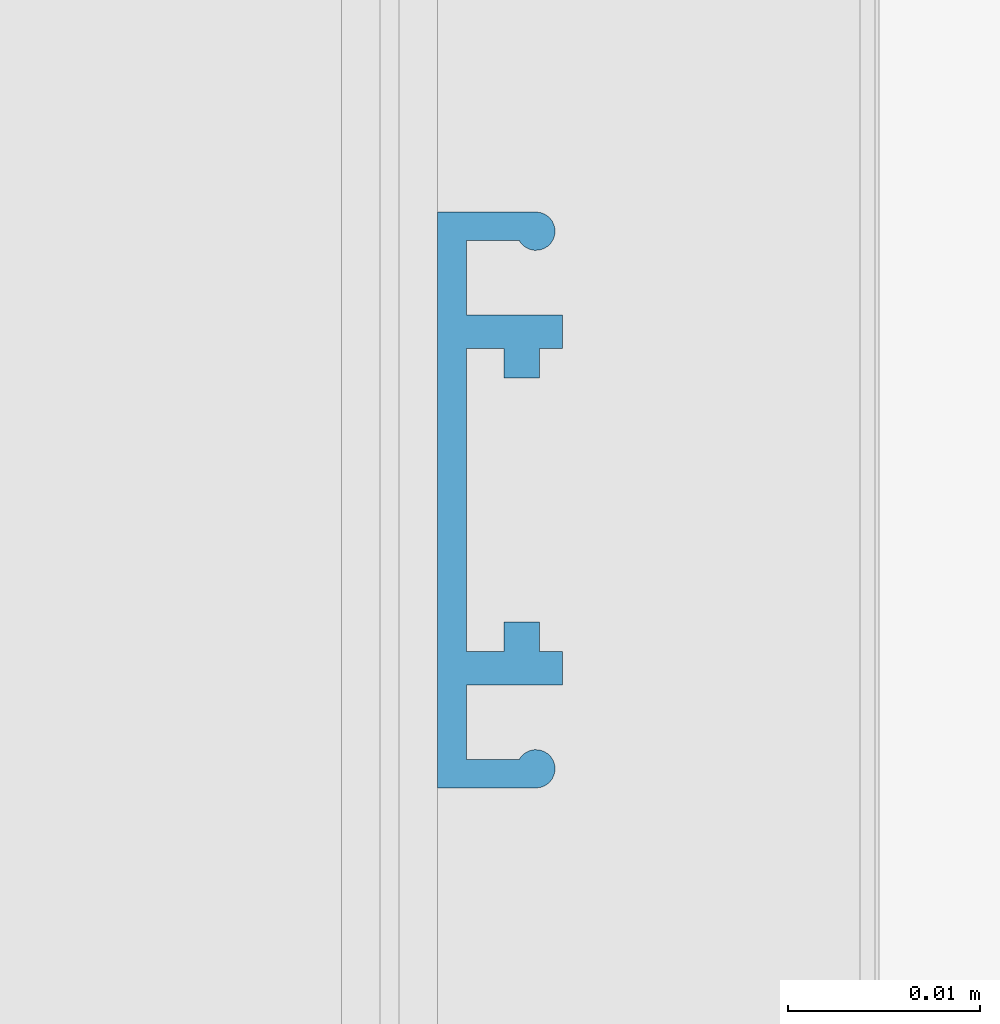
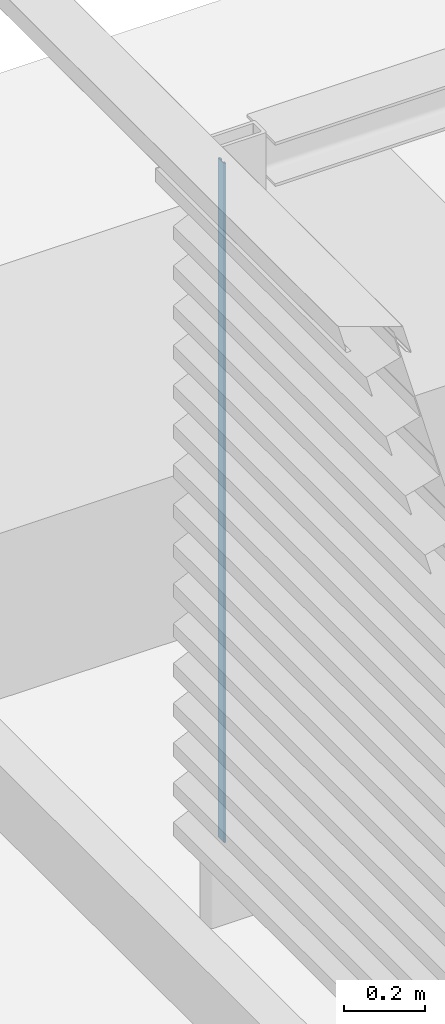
# One storey, part 17 of 32: 1 member, 1 element without a shape of its own.
"""IFC2X3 building model written with IfcOpenShell, lengths in millimetres."""

from ifc_helpers import new_model, entity, si_unit, converted_unit, derived_unit, direction, frame, frame_2d, origin, place, context, subcontext, project, spatial, polyline, circle_curve, parameter, trimmed, segment, composite_curve, outline, extrude, source, transform, mapped, material, type_object, type_shapes, element, aggregate, save


model = new_model("IFC2X3")

# Units and contexts
model_context = context("Model", 3, precision=0.01, world=origin(), true_north=direction((6.123031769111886e-17, 1.0)))
body_context = subcontext(model_context, "Body", "Model", "MODEL_VIEW")
ifc_project = project(units=[si_unit("LENGTHUNIT", "METRE", prefix="MILLI"), si_unit("AREAUNIT", "SQUARE_METRE"), si_unit("VOLUMEUNIT", "CUBIC_METRE"), converted_unit("PLANEANGLEUNIT", "DEGREE", entity("IfcRatioMeasure", 0.017453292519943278), si_unit("PLANEANGLEUNIT", "RADIAN"), dimensions=[0, 0, 0, 0, 0, 0, 0]), si_unit("MASSUNIT", "GRAM", prefix="KILO"), derived_unit("MASSDENSITYUNIT", [(si_unit("MASSUNIT", "GRAM", prefix="KILO"), 1), (si_unit("LENGTHUNIT", "METRE"), -3)]), derived_unit("IONCONCENTRATIONUNIT", [(si_unit("MASSUNIT", "GRAM", prefix="KILO"), 1), (si_unit("LENGTHUNIT", "METRE"), -3)]), derived_unit("MOMENTOFINERTIAUNIT", [(si_unit("LENGTHUNIT", "METRE"), 4)]), si_unit("TIMEUNIT", "SECOND"), si_unit("FREQUENCYUNIT", "HERTZ"), si_unit("THERMODYNAMICTEMPERATUREUNIT", "DEGREE_CELSIUS"), derived_unit("THERMALTRANSMITTANCEUNIT", [(si_unit("MASSUNIT", "GRAM", prefix="KILO"), 1), (si_unit("THERMODYNAMICTEMPERATUREUNIT", "KELVIN"), -1), (si_unit("TIMEUNIT", "SECOND"), -3)]), derived_unit("THERMALCONDUCTANCEUNIT", [(si_unit("MASSUNIT", "GRAM", prefix="KILO"), 1), (si_unit("THERMODYNAMICTEMPERATUREUNIT", "KELVIN"), -1), (si_unit("TIMEUNIT", "SECOND"), -3), (si_unit("LENGTHUNIT", "METRE"), 1)]), derived_unit("VOLUMETRICFLOWRATEUNIT", [(si_unit("LENGTHUNIT", "METRE"), 3), (si_unit("TIMEUNIT", "SECOND"), -1)]), derived_unit("MASSFLOWRATEUNIT", [(si_unit("MASSUNIT", "GRAM", prefix="KILO"), 1), (si_unit("TIMEUNIT", "SECOND"), -1)]), derived_unit("ROTATIONALFREQUENCYUNIT", [(si_unit("TIMEUNIT", "SECOND"), -1)]), si_unit("ELECTRICCURRENTUNIT", "AMPERE"), si_unit("ELECTRICVOLTAGEUNIT", "VOLT"), si_unit("POWERUNIT", "WATT"), si_unit("FORCEUNIT", "NEWTON", prefix="KILO"), si_unit("ILLUMINANCEUNIT", "LUX"), si_unit("LUMINOUSFLUXUNIT", "LUMEN"), si_unit("LUMINOUSINTENSITYUNIT", "CANDELA"), derived_unit("USERDEFINED", [(si_unit("MASSUNIT", "GRAM", prefix="KILO"), -1), (si_unit("LENGTHUNIT", "METRE"), -2), (si_unit("TIMEUNIT", "SECOND"), 3), (si_unit("LUMINOUSFLUXUNIT", "LUMEN"), 1)]), derived_unit("USERDEFINED", [(si_unit("MASSUNIT", "GRAM", prefix="KILO"), 1), (si_unit("TIMEUNIT", "SECOND"), -3), (si_unit("LENGTHUNIT", "METRE"), 3), (si_unit("ELECTRICCURRENTUNIT", "AMPERE"), -2)]), derived_unit("SOUNDPOWERUNIT", [(si_unit("MASSUNIT", "GRAM", prefix="KILO"), 1), (si_unit("TIMEUNIT", "SECOND"), -3), (si_unit("LENGTHUNIT", "METRE"), 2)]), derived_unit("SOUNDPRESSUREUNIT", [(si_unit("MASSUNIT", "GRAM", prefix="KILO"), 1), (si_unit("LENGTHUNIT", "METRE"), -1), (si_unit("TIMEUNIT", "SECOND"), -2)]), derived_unit("LINEARVELOCITYUNIT", [(si_unit("LENGTHUNIT", "METRE"), 1), (si_unit("TIMEUNIT", "SECOND"), -1)]), si_unit("PRESSUREUNIT", "PASCAL"), derived_unit("USERDEFINED", [(si_unit("MASSUNIT", "GRAM", prefix="KILO"), 1), (si_unit("LENGTHUNIT", "METRE"), -2), (si_unit("TIMEUNIT", "SECOND"), -2)]), derived_unit("LINEARFORCEUNIT", [(si_unit("MASSUNIT", "GRAM", prefix="KILO"), 1), (si_unit("TIMEUNIT", "SECOND"), -2)]), derived_unit("PLANARFORCEUNIT", [(si_unit("MASSUNIT", "GRAM", prefix="KILO"), 1), (si_unit("LENGTHUNIT", "METRE"), -1), (si_unit("TIMEUNIT", "SECOND"), -2)]), derived_unit("SPECIFICHEATCAPACITYUNIT", [(si_unit("THERMODYNAMICTEMPERATUREUNIT", "KELVIN"), -1), (si_unit("LENGTHUNIT", "METRE"), 2), (si_unit("TIMEUNIT", "SECOND"), -2)]), derived_unit("HEATINGVALUEUNIT", [(si_unit("LENGTHUNIT", "METRE"), 2), (si_unit("TIMEUNIT", "SECOND"), -2)]), derived_unit("VAPORPERMEABILITYUNIT", [(si_unit("LENGTHUNIT", "METRE"), -1), (si_unit("TIMEUNIT", "SECOND"), 1)]), derived_unit("DYNAMICVISCOSITYUNIT", [(si_unit("MASSUNIT", "GRAM", prefix="KILO"), 1), (si_unit("TIMEUNIT", "SECOND"), -1), (si_unit("LENGTHUNIT", "METRE"), -1)]), derived_unit("THERMALEXPANSIONCOEFFICIENTUNIT", [(si_unit("THERMODYNAMICTEMPERATUREUNIT", "KELVIN"), -1)]), derived_unit("MODULUSOFELASTICITYUNIT", [(si_unit("MASSUNIT", "GRAM", prefix="KILO"), 1), (si_unit("LENGTHUNIT", "METRE"), -1), (si_unit("TIMEUNIT", "SECOND"), -2)]), derived_unit("ISOTHERMALMOISTURECAPACITYUNIT", [(si_unit("LENGTHUNIT", "METRE"), 3), (si_unit("MASSUNIT", "GRAM", prefix="KILO"), -1)]), derived_unit("MOISTUREDIFFUSIVITYUNIT", [(si_unit("TIMEUNIT", "SECOND"), -1), (si_unit("LENGTHUNIT", "METRE"), 2)])], contexts=[model_context])

# Site, building, storey
site_placement = place(None, frame((0.0, 300.0, 0.0)))
site = spatial("IfcSite", under=ifc_project, at=site_placement, Name="<Kadastrale nummers>", CompositionType="ELEMENT")
building_placement = place(site_placement, origin())
building = spatial("IfcBuilding", under=site, at=building_placement, CompositionType="ELEMENT")
storey_placement = place(building_placement, frame((0.0, 0.0, 7150.000035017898)))
storey = spatial("IfcBuildingStorey", under=building, at=storey_placement, Name="02 tweede verdieping", CompositionType="ELEMENT", Elevation=7150.000035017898)

# Curtain wall, member
curtain_wall_type = type_object("IfcCurtainWallType", Name="Curtain Wall:NLRS_21_CWA_lamellenwand Linius - L.120 met LD.0065_Storax", PredefinedType="NOTDEFINED")
curtain_wall_placement = place(storey_placement, frame((0.0, 0.0, -7150.000035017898)))
curtain_wall = element("IfcCurtainWall", 1, at=curtain_wall_placement, inside=storey, type_object=curtain_wall_type, Name="Curtain Wall:NLRS_21_CWA_lamellenwand Linius - L.120 met LD.0065_Storax", ObjectType="Curtain Wall:NLRS_21_CWA_lamellenwand Linius - L.120 met LD.0065_Storax")
ifc_material = material(Name="STAAL_RAL 7006")
member_type = type_object("IfcMemberType", Name="Rectangular Mullion:NLRS_21_CWM_drager LD.0065 - links_Storax", PredefinedType="MULLION", material=ifc_material)
shared_shape = source(origin(), body_context, "Body", "SweptSolid", [
    extrude(outline(composite_curve([segment(polyline([(-1.4234637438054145, -14.998975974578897), (3.6968340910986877, -14.998975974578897)]), True, "CONTINUOUS"), segment(polyline([(3.6968340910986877, -14.998975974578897), (3.6968340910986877, 15.00102402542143)]), True, "CONTINUOUS"), segment(polyline([(3.6968340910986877, 15.00102402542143), (-1.4234637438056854, 15.00102402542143)]), True, "CONTINUOUS"), segment(trimmed(circle_curve(frame_2d((-1.423463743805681, 14.001024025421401), x_axis=(0.0, 1.0)), 1.0000000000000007), [parameter(0.0)], [parameter(241.34010185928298)], True, "PARAMETER"), True, "CONTINUOUS"), segment(polyline([(-0.5459816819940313, 13.521414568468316), (2.196834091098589, 13.521414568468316)]), True, "CONTINUOUS"), segment(polyline([(2.196834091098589, 13.521414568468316), (2.196834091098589, 9.648596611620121)]), True, "CONTINUOUS"), segment(polyline([(2.196834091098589, 9.648596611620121), (-2.80316590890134, 9.648596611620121)]), True, "CONTINUOUS"), segment(polyline([(-2.80316590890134, 9.648596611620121), (-2.80316590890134, 7.887964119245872)]), True, "CONTINUOUS"), segment(polyline([(-2.80316590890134, 7.887964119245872), (-1.603120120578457, 7.887964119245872)]), True, "CONTINUOUS"), segment(polyline([(-1.603120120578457, 7.887964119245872), (-1.603120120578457, 6.348596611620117)]), True, "CONTINUOUS"), segment(polyline([(-1.603120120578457, 6.348596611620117), (0.24734056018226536, 6.348596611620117)]), True, "CONTINUOUS"), segment(polyline([(0.24734056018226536, 6.348596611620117), (0.24734056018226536, 7.887964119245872)]), True, "CONTINUOUS"), segment(polyline([(0.24734056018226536, 7.887964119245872), (2.196834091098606, 7.887964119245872)]), True, "CONTINUOUS"), segment(polyline([(2.196834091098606, 7.887964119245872), (2.196834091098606, -7.8859160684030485)]), True, "CONTINUOUS"), segment(polyline([(2.196834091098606, -7.8859160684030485), (0.24734056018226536, -7.8859160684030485)]), True, "CONTINUOUS"), segment(polyline([(0.24734056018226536, -7.8859160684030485), (0.24734056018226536, -6.358836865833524)]), True, "CONTINUOUS"), segment(polyline([(0.24734056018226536, -6.358836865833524), (-1.603120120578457, -6.358836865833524)]), True, "CONTINUOUS"), segment(polyline([(-1.603120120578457, -6.358836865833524), (-1.603120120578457, -7.8859160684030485)]), True, "CONTINUOUS"), segment(polyline([(-1.603120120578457, -7.8859160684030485), (-2.8031659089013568, -7.8859160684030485)]), True, "CONTINUOUS"), segment(polyline([(-2.8031659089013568, -7.8859160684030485), (-2.8031659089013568, -9.646548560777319)]), True, "CONTINUOUS"), segment(polyline([(-2.8031659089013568, -9.646548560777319), (2.1968340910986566, -9.646548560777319)]), True, "CONTINUOUS"), segment(polyline([(2.1968340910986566, -9.646548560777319), (2.1968340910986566, -13.519366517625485)]), True, "CONTINUOUS"), segment(polyline([(2.1968340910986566, -13.519366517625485), (-0.5459816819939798, -13.519366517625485)]), True, "CONTINUOUS"), segment(trimmed(circle_curve(frame_2d((-1.4234637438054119, -13.998975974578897), x_axis=(0.8774820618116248, 0.4796094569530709)), 0.9999999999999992), [parameter(0.0)], [parameter(241.34010185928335)], True, "PARAMETER"), True, "CONTINUOUS")], self_intersect=False)), frame((-65.00102402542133, 4.6968340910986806, -2049.999964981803), z_axis=(0.0, 0.0, 1.0), x_axis=(0.0, -1.0, 0.0)), (0.0, 0.0, 1.0), 2049.999964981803),
])
type_shapes(member_type, [shared_shape])
member_placement = place(curtain_wall_placement, frame((38414.0, 46185.0, 7650.000035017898), z_axis=(0.0, 0.0, -1.0), x_axis=(0.0, 1.0, 0.0)))
member = element("IfcMember", 2, at=member_placement, type_object=member_type, material=ifc_material, Name="Rectangular Mullion:NLRS_21_CWM_drager LD.0065 - links_Storax", ObjectType="Rectangular Mullion:NLRS_21_CWM_drager LD.0065 - links_Storax", context=body_context, shape_type="MappedRepresentation", body=[
    mapped(shared_shape, transform((0.0, 0.0, 0.0), scale=1.0)),
])
aggregate(curtain_wall, [member])

save(model, "model.ifc")
